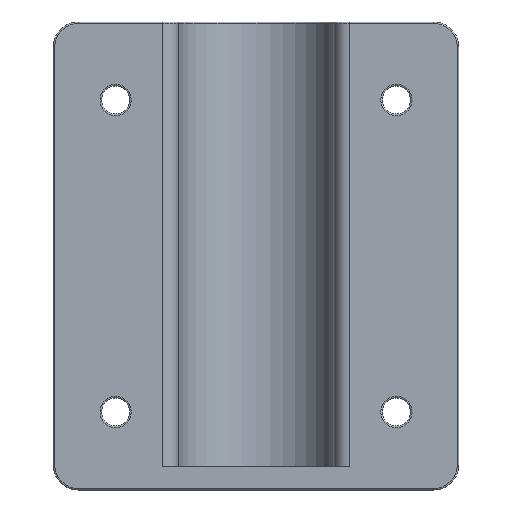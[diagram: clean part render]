
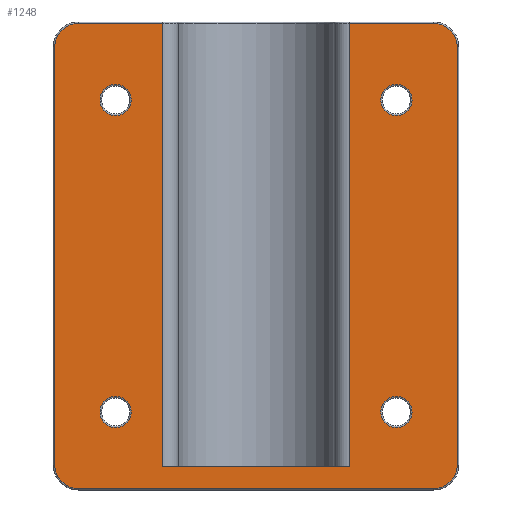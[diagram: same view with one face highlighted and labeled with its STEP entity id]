
A CAD part, front view. The second image highlights one B-rep face of the part: STEP entity #1248.
In plain terms, the highlighted planar face has unit normal (0, -1, 0).
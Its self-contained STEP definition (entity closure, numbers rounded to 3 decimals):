
#55=FACE_BOUND('',#308,.T.);
#56=FACE_BOUND('',#309,.T.);
#57=FACE_BOUND('',#310,.T.);
#58=FACE_BOUND('',#311,.T.);
#63=LINE('',#2055,#136);
#64=LINE('',#2057,#137);
#65=LINE('',#2059,#138);
#66=LINE('',#2061,#139);
#67=LINE('',#2063,#140);
#68=LINE('',#2067,#141);
#69=LINE('',#2071,#142);
#70=LINE('',#2075,#143);
#136=VECTOR('',#1572,10.);
#137=VECTOR('',#1573,10.);
#138=VECTOR('',#1574,10.);
#139=VECTOR('',#1575,10.);
#140=VECTOR('',#1576,10.);
#141=VECTOR('',#1579,10.);
#142=VECTOR('',#1582,10.);
#143=VECTOR('',#1585,10.);
#209=PLANE('',#1358);
#224=FACE_OUTER_BOUND('',#307,.T.);
#307=EDGE_LOOP('',(#833,#834,#835,#836,#837,#838,#839,#840,#841,#842,#843,
#844));
#308=EDGE_LOOP('',(#845));
#309=EDGE_LOOP('',(#846));
#310=EDGE_LOOP('',(#847));
#311=EDGE_LOOP('',(#848));
#397=CIRCLE('',#1354,5.);
#401=CIRCLE('',#1359,7.5);
#402=CIRCLE('',#1360,7.5);
#403=CIRCLE('',#1361,7.5);
#404=CIRCLE('',#1362,7.5);
#405=CIRCLE('',#1363,5.);
#406=CIRCLE('',#1364,5.);
#407=CIRCLE('',#1365,5.);
#519=VERTEX_POINT('',#2045);
#522=VERTEX_POINT('',#2053);
#523=VERTEX_POINT('',#2054);
#524=VERTEX_POINT('',#2056);
#525=VERTEX_POINT('',#2058);
#526=VERTEX_POINT('',#2060);
#527=VERTEX_POINT('',#2062);
#528=VERTEX_POINT('',#2064);
#529=VERTEX_POINT('',#2066);
#530=VERTEX_POINT('',#2068);
#531=VERTEX_POINT('',#2070);
#532=VERTEX_POINT('',#2072);
#533=VERTEX_POINT('',#2074);
#534=VERTEX_POINT('',#2077);
#535=VERTEX_POINT('',#2079);
#536=VERTEX_POINT('',#2081);
#633=EDGE_CURVE('',#519,#519,#397,.T.);
#637=EDGE_CURVE('',#522,#523,#63,.T.);
#638=EDGE_CURVE('',#524,#522,#64,.T.);
#639=EDGE_CURVE('',#524,#525,#65,.T.);
#640=EDGE_CURVE('',#525,#526,#66,.T.);
#641=EDGE_CURVE('',#527,#526,#67,.T.);
#642=EDGE_CURVE('',#528,#527,#401,.T.);
#643=EDGE_CURVE('',#529,#528,#68,.T.);
#644=EDGE_CURVE('',#530,#529,#402,.T.);
#645=EDGE_CURVE('',#531,#530,#69,.T.);
#646=EDGE_CURVE('',#532,#531,#403,.T.);
#647=EDGE_CURVE('',#533,#532,#70,.T.);
#648=EDGE_CURVE('',#523,#533,#404,.T.);
#649=EDGE_CURVE('',#534,#534,#405,.T.);
#650=EDGE_CURVE('',#535,#535,#406,.T.);
#651=EDGE_CURVE('',#536,#536,#407,.T.);
#833=ORIENTED_EDGE('',*,*,#637,.F.);
#834=ORIENTED_EDGE('',*,*,#638,.F.);
#835=ORIENTED_EDGE('',*,*,#639,.T.);
#836=ORIENTED_EDGE('',*,*,#640,.T.);
#837=ORIENTED_EDGE('',*,*,#641,.F.);
#838=ORIENTED_EDGE('',*,*,#642,.F.);
#839=ORIENTED_EDGE('',*,*,#643,.F.);
#840=ORIENTED_EDGE('',*,*,#644,.F.);
#841=ORIENTED_EDGE('',*,*,#645,.F.);
#842=ORIENTED_EDGE('',*,*,#646,.F.);
#843=ORIENTED_EDGE('',*,*,#647,.F.);
#844=ORIENTED_EDGE('',*,*,#648,.F.);
#845=ORIENTED_EDGE('',*,*,#649,.F.);
#846=ORIENTED_EDGE('',*,*,#650,.F.);
#847=ORIENTED_EDGE('',*,*,#651,.F.);
#848=ORIENTED_EDGE('',*,*,#633,.F.);
#1248=ADVANCED_FACE('',(#224,#55,#56,#57,#58),#209,.T.);
#1354=AXIS2_PLACEMENT_3D('',#2046,#1562,#1563);
#1358=AXIS2_PLACEMENT_3D('',#2052,#1570,#1571);
#1359=AXIS2_PLACEMENT_3D('',#2065,#1577,#1578);
#1360=AXIS2_PLACEMENT_3D('',#2069,#1580,#1581);
#1361=AXIS2_PLACEMENT_3D('',#2073,#1583,#1584);
#1362=AXIS2_PLACEMENT_3D('',#2076,#1586,#1587);
#1363=AXIS2_PLACEMENT_3D('',#2078,#1588,#1589);
#1364=AXIS2_PLACEMENT_3D('',#2080,#1590,#1591);
#1365=AXIS2_PLACEMENT_3D('',#2082,#1592,#1593);
#1562=DIRECTION('center_axis',(0.,-1.,0.));
#1563=DIRECTION('ref_axis',(-1.,0.,0.));
#1570=DIRECTION('center_axis',(0.,-1.,0.));
#1571=DIRECTION('ref_axis',(1.,0.,0.));
#1572=DIRECTION('',(1.,0.,0.));
#1573=DIRECTION('',(0.,0.,1.));
#1574=DIRECTION('',(-1.,0.,0.));
#1575=DIRECTION('',(0.,0.,1.));
#1576=DIRECTION('',(1.,0.,0.));
#1577=DIRECTION('center_axis',(0.,1.,0.));
#1578=DIRECTION('ref_axis',(-0.707,0.,0.707));
#1579=DIRECTION('',(0.,0.,1.));
#1580=DIRECTION('center_axis',(0.,1.,0.));
#1581=DIRECTION('ref_axis',(-0.707,0.,-0.707));
#1582=DIRECTION('',(-1.,0.,0.));
#1583=DIRECTION('center_axis',(0.,1.,0.));
#1584=DIRECTION('ref_axis',(0.707,0.,-0.707));
#1585=DIRECTION('',(0.,0.,-1.));
#1586=DIRECTION('center_axis',(0.,1.,0.));
#1587=DIRECTION('ref_axis',(0.707,0.,0.707));
#1588=DIRECTION('center_axis',(0.,-1.,0.));
#1589=DIRECTION('ref_axis',(-1.,0.,0.));
#1590=DIRECTION('center_axis',(0.,-1.,0.));
#1591=DIRECTION('ref_axis',(-1.,0.,0.));
#1592=DIRECTION('center_axis',(0.,-1.,0.));
#1593=DIRECTION('ref_axis',(-1.,0.,0.));
#2045=CARTESIAN_POINT('',(45.,-25.,-55.));
#2046=CARTESIAN_POINT('Origin',(45.,-25.,-50.));
#2052=CARTESIAN_POINT('Origin',(-65.,-25.,0.));
#2053=CARTESIAN_POINT('',(30.,-25.,74.5));
#2054=CARTESIAN_POINT('',(57.,-25.,74.5));
#2055=CARTESIAN_POINT('',(-32.5,-25.,74.5));
#2056=CARTESIAN_POINT('',(30.,-25.,-67.5));
#2057=CARTESIAN_POINT('',(30.,-25.,75.));
#2058=CARTESIAN_POINT('',(-30.,-25.,-67.5));
#2059=CARTESIAN_POINT('',(-32.5,-25.,-67.5));
#2060=CARTESIAN_POINT('',(-30.,-25.,74.5));
#2061=CARTESIAN_POINT('',(-30.,-25.,75.));
#2062=CARTESIAN_POINT('',(-57.,-25.,74.5));
#2063=CARTESIAN_POINT('',(-32.5,-25.,74.5));
#2064=CARTESIAN_POINT('',(-64.5,-25.,67.));
#2065=CARTESIAN_POINT('Origin',(-57.,-25.,67.));
#2066=CARTESIAN_POINT('',(-64.5,-25.,-67.));
#2067=CARTESIAN_POINT('',(-64.5,-25.,0.));
#2068=CARTESIAN_POINT('',(-57.,-25.,-74.5));
#2069=CARTESIAN_POINT('Origin',(-57.,-25.,-67.));
#2070=CARTESIAN_POINT('',(57.,-25.,-74.5));
#2071=CARTESIAN_POINT('',(-32.5,-25.,-74.5));
#2072=CARTESIAN_POINT('',(64.5,-25.,-67.));
#2073=CARTESIAN_POINT('Origin',(57.,-25.,-67.));
#2074=CARTESIAN_POINT('',(64.5,-25.,67.));
#2075=CARTESIAN_POINT('',(64.5,-25.,0.));
#2076=CARTESIAN_POINT('Origin',(57.,-25.,67.));
#2077=CARTESIAN_POINT('',(-45.,-25.,-55.));
#2078=CARTESIAN_POINT('Origin',(-45.,-25.,-50.));
#2079=CARTESIAN_POINT('',(45.,-25.,45.));
#2080=CARTESIAN_POINT('Origin',(45.,-25.,50.));
#2081=CARTESIAN_POINT('',(-45.,-25.,45.));
#2082=CARTESIAN_POINT('Origin',(-45.,-25.,50.));
